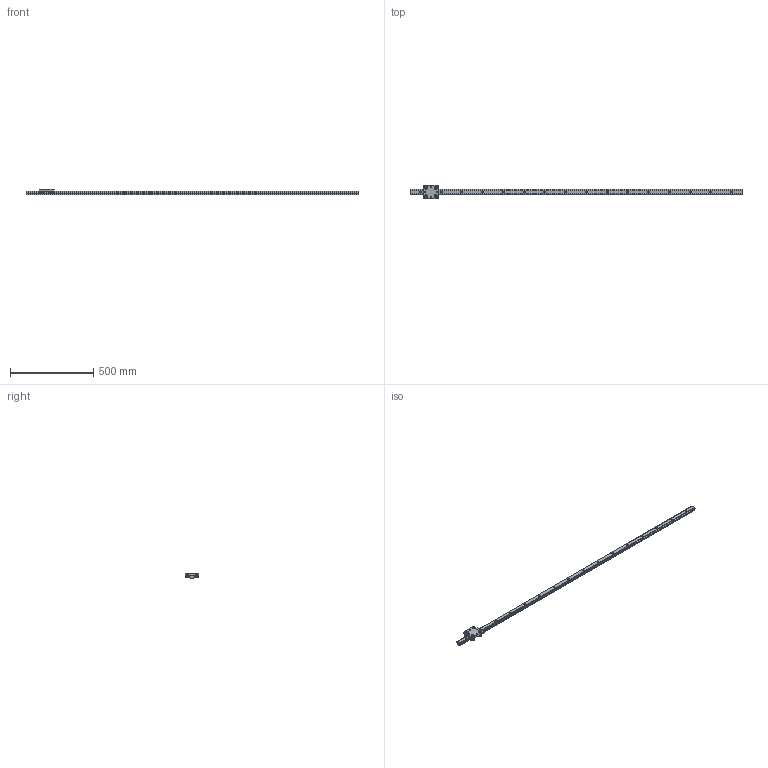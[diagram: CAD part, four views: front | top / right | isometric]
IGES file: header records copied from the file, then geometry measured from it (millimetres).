
Global section: file name: No Iges File Name specified; native system: AutoDesk Inventor R11.0; preprocessor: AutoDesk Inventor Iges Exporter R11.0; author: No Author specified; organization: No Organization specified; date: 20170718.164941; units: millimetre
Bounding box: 2000 x 80 x 35.5 mm (x, y, z)
Surface area: 232878.1 mm2 (no closed solid volume)
Topology: 0 solids, 0 shells, 287 faces, 1822 edges, 1822 vertices
Faces by surface type: bspline 287
